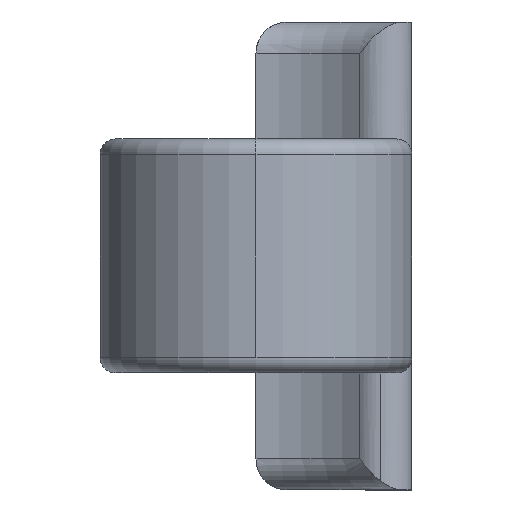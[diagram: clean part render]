
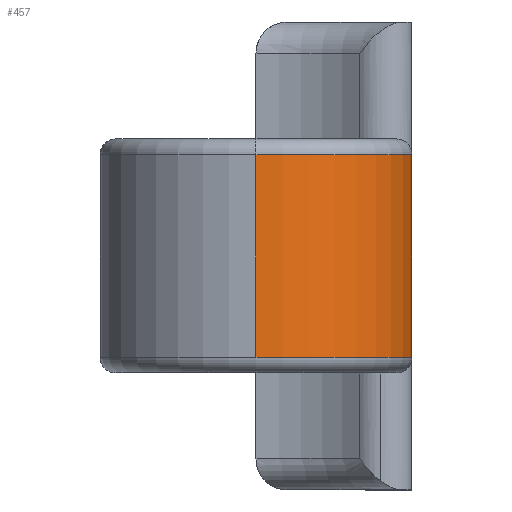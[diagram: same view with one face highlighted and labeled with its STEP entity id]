
A CAD part, left-side view. The second image highlights one B-rep face of the part: STEP entity #457.
In plain terms, the highlighted cylindrical face has radius 6.35 mm (diameter 12.7 mm), a partial arc.
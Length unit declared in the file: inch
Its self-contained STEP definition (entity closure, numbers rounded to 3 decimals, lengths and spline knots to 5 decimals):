
#35 = CARTESIAN_POINT ( 'NONE',  ( -5.675, 0.25, 0.1625 ) ) ;
#60 = EDGE_LOOP ( 'NONE', ( #372, #1537, #1370, #109 ) ) ;
#109 = ORIENTED_EDGE ( 'NONE', *, *, #141, .F. ) ;
#117 = DIRECTION ( 'NONE',  ( 0., 0., -1. ) ) ;
#141 = EDGE_CURVE ( 'NONE', #203, #889, #913, .T. ) ;
#187 = DIRECTION ( 'NONE',  ( 0., 0., -1. ) ) ;
#193 = CARTESIAN_POINT ( 'NONE',  ( -5.925, 0.25, 0.89461 ) ) ;
#203 = VERTEX_POINT ( 'NONE', #410 ) ;
#345 = LINE ( 'NONE', #193, #677 ) ;
#372 = ORIENTED_EDGE ( 'NONE', *, *, #937, .T. ) ;
#410 = CARTESIAN_POINT ( 'NONE',  ( -5.675, 0., 0.1625 ) ) ;
#457 = ADVANCED_FACE ( 'NONE', ( #1281 ), #1123, .T. ) ;
#474 = CARTESIAN_POINT ( 'NONE',  ( -5.675, 0.25, -0.1625 ) ) ;
#562 = EDGE_CURVE ( 'NONE', #1212, #889, #1259, .T. ) ;
#677 = VECTOR ( 'NONE', #187, 39.37008 ) ;
#786 = DIRECTION ( 'NONE',  ( 1., 0., 0. ) ) ;
#818 = DIRECTION ( 'NONE',  ( 0., 0., -1. ) ) ;
#889 = VERTEX_POINT ( 'NONE', #1590 ) ;
#913 = LINE ( 'NONE', #1527, #1649 ) ;
#937 = EDGE_CURVE ( 'NONE', #203, #1941, #1159, .T. ) ;
#942 = DIRECTION ( 'NONE',  ( 0., 0., 1. ) ) ;
#1091 = EDGE_CURVE ( 'NONE', #1941, #1212, #345, .T. ) ;
#1097 = DIRECTION ( 'NONE',  ( -1., 0., 0. ) ) ;
#1109 = DIRECTION ( 'NONE',  ( 0., 0., -1. ) ) ;
#1123 = CYLINDRICAL_SURFACE ( 'NONE', #1284, 0.25 ) ;
#1159 = CIRCLE ( 'NONE', #1655, 0.25 ) ;
#1212 = VERTEX_POINT ( 'NONE', #1654 ) ;
#1259 = CIRCLE ( 'NONE', #1683, 0.25 ) ;
#1277 = DIRECTION ( 'NONE',  ( -1., 0., 0. ) ) ;
#1281 = FACE_OUTER_BOUND ( 'NONE', #60, .T. ) ;
#1284 = AXIS2_PLACEMENT_3D ( 'NONE', #1556, #1109, #1097 ) ;
#1370 = ORIENTED_EDGE ( 'NONE', *, *, #562, .T. ) ;
#1527 = CARTESIAN_POINT ( 'NONE',  ( -5.675, 0., 0.37954 ) ) ;
#1537 = ORIENTED_EDGE ( 'NONE', *, *, #1091, .T. ) ;
#1556 = CARTESIAN_POINT ( 'NONE',  ( -5.675, 0.25, 0.89461 ) ) ;
#1590 = CARTESIAN_POINT ( 'NONE',  ( -5.675, 0., -0.1625 ) ) ;
#1649 = VECTOR ( 'NONE', #117, 39.37008 ) ;
#1654 = CARTESIAN_POINT ( 'NONE',  ( -5.925, 0.25, -0.1625 ) ) ;
#1655 = AXIS2_PLACEMENT_3D ( 'NONE', #35, #818, #1277 ) ;
#1683 = AXIS2_PLACEMENT_3D ( 'NONE', #474, #942, #786 ) ;
#1941 = VERTEX_POINT ( 'NONE', #2021 ) ;
#2021 = CARTESIAN_POINT ( 'NONE',  ( -5.925, 0.25, 0.1625 ) ) ;
